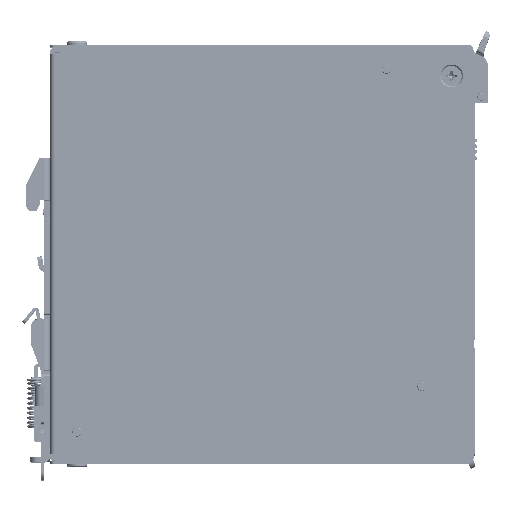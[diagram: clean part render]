
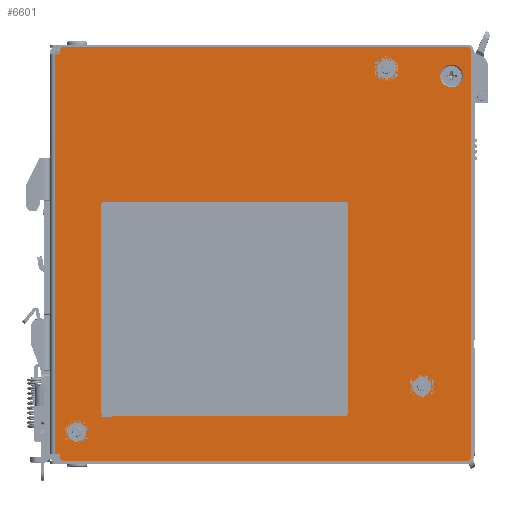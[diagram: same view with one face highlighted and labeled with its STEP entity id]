
A CAD part, top view. The second image highlights one B-rep face of the part: STEP entity #6601.
In plain terms, the highlighted planar face has unit normal (0, 0, 1).
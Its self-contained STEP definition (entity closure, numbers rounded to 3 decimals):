
#1279=DIRECTION('',(0.,-1.,0.));
#1280=VECTOR('',#1279,118.4);
#1281=CARTESIAN_POINT('',(1.5,59.2,0.));
#1282=LINE('',#1281,#1280);
#1301=DIRECTION('',(-1.,0.,0.));
#1302=VECTOR('',#1301,1.5);
#1303=CARTESIAN_POINT('',(3.,59.2,0.));
#1304=LINE('',#1303,#1302);
#1315=CARTESIAN_POINT('',(123.5,-60.1,0.));
#1316=DIRECTION('',(0.,0.,-1.));
#1317=DIRECTION('',(1.,0.,0.));
#1318=AXIS2_PLACEMENT_3D('',#1315,#1316,#1317);
#1323=CARTESIAN_POINT('',(4.,-60.2,0.));
#1324=DIRECTION('',(0.,0.,-1.));
#1325=DIRECTION('',(0.,-1.,0.));
#1326=AXIS2_PLACEMENT_3D('',#1323,#1324,#1325);
#1331=CARTESIAN_POINT('',(2.7,-59.5,0.));
#1332=DIRECTION('',(0.,0.,1.));
#1333=DIRECTION('',(1.,0.,0.));
#1334=AXIS2_PLACEMENT_3D('',#1331,#1332,#1333);
#1339=DIRECTION('',(-1.,0.,0.));
#1340=VECTOR('',#1339,1.2);
#1341=CARTESIAN_POINT('',(2.7,-59.2,0.));
#1342=LINE('',#1341,#1340);
#1346=DIRECTION('',(0.,1.,0.));
#1347=VECTOR('',#1346,1.);
#1348=CARTESIAN_POINT('',(3.,59.2,0.));
#1349=LINE('',#1348,#1347);
#1353=CARTESIAN_POINT('',(4.,60.2,0.));
#1354=DIRECTION('',(0.,0.,-1.));
#1355=DIRECTION('',(-1.,0.,0.));
#1356=AXIS2_PLACEMENT_3D('',#1353,#1354,#1355);
#1361=CARTESIAN_POINT('',(123.5,60.1,0.));
#1362=DIRECTION('',(0.,0.,-1.));
#1363=DIRECTION('',(0.,1.,0.));
#1364=AXIS2_PLACEMENT_3D('',#1361,#1362,#1363);
#1369=CARTESIAN_POINT('',(118.9,52.7,0.));
#1370=DIRECTION('',(0.,0.,1.));
#1371=DIRECTION('',(-1.,0.,0.));
#1372=AXIS2_PLACEMENT_3D('',#1369,#1370,#1371);
#1377=CARTESIAN_POINT('',(118.9,52.7,0.));
#1378=DIRECTION('',(0.,0.,1.));
#1379=DIRECTION('',(1.,0.,0.));
#1380=AXIS2_PLACEMENT_3D('',#1377,#1378,#1379);
#1385=CARTESIAN_POINT('',(8.,-52.7,0.));
#1386=DIRECTION('',(0.,0.,1.));
#1387=DIRECTION('',(1.,0.,0.));
#1388=AXIS2_PLACEMENT_3D('',#1385,#1386,#1387);
#1393=CARTESIAN_POINT('',(8.,-52.7,0.));
#1394=DIRECTION('',(0.,0.,1.));
#1395=DIRECTION('',(-1.,0.,0.));
#1396=AXIS2_PLACEMENT_3D('',#1393,#1394,#1395);
#1401=CARTESIAN_POINT('',(99.6,54.7,0.));
#1402=DIRECTION('',(0.,0.,1.));
#1403=DIRECTION('',(1.,0.,0.));
#1404=AXIS2_PLACEMENT_3D('',#1401,#1402,#1403);
#1409=CARTESIAN_POINT('',(99.6,54.7,0.));
#1410=DIRECTION('',(0.,0.,1.));
#1411=DIRECTION('',(-1.,0.,0.));
#1412=AXIS2_PLACEMENT_3D('',#1409,#1410,#1411);
#1417=CARTESIAN_POINT('',(110.1,-39.2,0.));
#1418=DIRECTION('',(0.,0.,1.));
#1419=DIRECTION('',(1.,0.,0.));
#1420=AXIS2_PLACEMENT_3D('',#1417,#1418,#1419);
#1425=CARTESIAN_POINT('',(110.1,-39.2,0.));
#1426=DIRECTION('',(0.,0.,1.));
#1427=DIRECTION('',(-1.,0.,0.));
#1428=AXIS2_PLACEMENT_3D('',#1425,#1426,#1427);
#1600=DIRECTION('',(0.,1.,0.));
#1601=VECTOR('',#1600,21.7);
#1602=CARTESIAN_POINT('',(124.6,-60.1,0.));
#1603=LINE('',#1602,#1601);
#1614=DIRECTION('',(0.,1.,0.));
#1615=VECTOR('',#1614,98.5);
#1616=CARTESIAN_POINT('',(124.6,-38.4,0.));
#1617=LINE('',#1616,#1615);
#1635=DIRECTION('',(-1.,0.,0.));
#1636=VECTOR('',#1635,119.5);
#1637=CARTESIAN_POINT('',(123.5,61.2,0.));
#1638=LINE('',#1637,#1636);
#1691=DIRECTION('',(0.,-1.,0.));
#1692=VECTOR('',#1691,0.7);
#1693=CARTESIAN_POINT('',(3.,-59.5,0.));
#1694=LINE('',#1693,#1692);
#1712=DIRECTION('',(1.,0.,0.));
#1713=VECTOR('',#1712,119.5);
#1714=CARTESIAN_POINT('',(4.,-61.2,0.));
#1715=LINE('',#1714,#1713);
#1805=DIRECTION('',(0.,1.,0.));
#1806=VECTOR('',#1805,20.);
#1807=CARTESIAN_POINT('',(15.,-29.7,0.));
#1808=LINE('',#1807,#1806);
#1819=DIRECTION('',(1.,0.,0.));
#1820=VECTOR('',#1819,0.2);
#1821=CARTESIAN_POINT('',(15.,-9.7,0.));
#1822=LINE('',#1821,#1820);
#1833=DIRECTION('',(0.,-1.,0.));
#1834=VECTOR('',#1833,20.);
#1835=CARTESIAN_POINT('',(15.2,-9.7,0.));
#1836=LINE('',#1835,#1834);
#1847=DIRECTION('',(-1.,0.,0.));
#1848=VECTOR('',#1847,0.2);
#1849=CARTESIAN_POINT('',(15.2,-29.7,0.));
#1850=LINE('',#1849,#1848);
#1889=DIRECTION('',(0.,1.,0.));
#1890=VECTOR('',#1889,3.5);
#1891=CARTESIAN_POINT('',(15.,-48.2,0.));
#1892=LINE('',#1891,#1890);
#1903=DIRECTION('',(1.,0.,0.));
#1904=VECTOR('',#1903,0.2);
#1905=CARTESIAN_POINT('',(15.,-44.7,0.));
#1906=LINE('',#1905,#1904);
#1917=DIRECTION('',(0.,-1.,0.));
#1918=VECTOR('',#1917,3.3);
#1919=CARTESIAN_POINT('',(15.2,-44.7,0.));
#1920=LINE('',#1919,#1918);
#1931=DIRECTION('',(1.,0.,0.));
#1932=VECTOR('',#1931,3.3);
#1933=CARTESIAN_POINT('',(15.2,-48.,0.));
#1934=LINE('',#1933,#1932);
#1945=DIRECTION('',(0.,-1.,0.));
#1946=VECTOR('',#1945,0.2);
#1947=CARTESIAN_POINT('',(18.5,-48.,0.));
#1948=LINE('',#1947,#1946);
#1959=DIRECTION('',(-1.,0.,0.));
#1960=VECTOR('',#1959,3.5);
#1961=CARTESIAN_POINT('',(18.5,-48.2,0.));
#1962=LINE('',#1961,#1960);
#5310=CARTESIAN_POINT('',(1.5,-59.2,0.));
#5311=VERTEX_POINT('',#5310);
#5312=CARTESIAN_POINT('',(1.5,59.2,0.));
#5313=VERTEX_POINT('',#5312);
#5314=CARTESIAN_POINT('',(3.,59.2,0.));
#5315=VERTEX_POINT('',#5314);
#5318=CARTESIAN_POINT('',(124.6,-60.1,0.));
#5319=CARTESIAN_POINT('',(123.5,-61.2,0.));
#5320=VERTEX_POINT('',#5318);
#5321=VERTEX_POINT('',#5319);
#5322=CARTESIAN_POINT('',(4.,-61.2,0.));
#5323=VERTEX_POINT('',#5322);
#5324=CARTESIAN_POINT('',(3.,-60.2,0.));
#5325=VERTEX_POINT('',#5324);
#5326=CARTESIAN_POINT('',(3.,-59.5,0.));
#5327=VERTEX_POINT('',#5326);
#5328=CARTESIAN_POINT('',(2.7,-59.2,0.));
#5329=VERTEX_POINT('',#5328);
#5330=CARTESIAN_POINT('',(3.,60.2,0.));
#5331=VERTEX_POINT('',#5330);
#5332=CARTESIAN_POINT('',(4.,61.2,0.));
#5333=VERTEX_POINT('',#5332);
#5334=CARTESIAN_POINT('',(123.5,61.2,0.));
#5335=VERTEX_POINT('',#5334);
#5336=CARTESIAN_POINT('',(124.6,60.1,0.));
#5337=VERTEX_POINT('',#5336);
#5338=CARTESIAN_POINT('',(124.6,-38.4,0.));
#5339=VERTEX_POINT('',#5338);
#5340=CARTESIAN_POINT('',(115.55,52.7,0.));
#5341=CARTESIAN_POINT('',(122.25,52.7,0.));
#5342=VERTEX_POINT('',#5340);
#5343=VERTEX_POINT('',#5341);
#5344=CARTESIAN_POINT('',(10.8,-52.7,0.));
#5345=CARTESIAN_POINT('',(5.2,-52.7,0.));
#5346=VERTEX_POINT('',#5344);
#5347=VERTEX_POINT('',#5345);
#5348=CARTESIAN_POINT('',(102.4,54.7,0.));
#5349=CARTESIAN_POINT('',(96.8,54.7,0.));
#5350=VERTEX_POINT('',#5348);
#5351=VERTEX_POINT('',#5349);
#5352=CARTESIAN_POINT('',(15.,-29.7,0.));
#5353=CARTESIAN_POINT('',(15.,-9.7,0.));
#5354=VERTEX_POINT('',#5352);
#5355=VERTEX_POINT('',#5353);
#5356=CARTESIAN_POINT('',(15.2,-29.7,0.));
#5357=VERTEX_POINT('',#5356);
#5358=CARTESIAN_POINT('',(15.2,-9.7,0.));
#5359=VERTEX_POINT('',#5358);
#5360=CARTESIAN_POINT('',(15.,-48.2,0.));
#5361=CARTESIAN_POINT('',(15.,-44.7,0.));
#5362=VERTEX_POINT('',#5360);
#5363=VERTEX_POINT('',#5361);
#5364=CARTESIAN_POINT('',(18.5,-48.2,0.));
#5365=VERTEX_POINT('',#5364);
#5366=CARTESIAN_POINT('',(18.5,-48.,0.));
#5367=VERTEX_POINT('',#5366);
#5368=CARTESIAN_POINT('',(15.2,-48.,0.));
#5369=VERTEX_POINT('',#5368);
#5370=CARTESIAN_POINT('',(15.2,-44.7,0.));
#5371=VERTEX_POINT('',#5370);
#5372=CARTESIAN_POINT('',(112.9,-39.2,0.));
#5373=CARTESIAN_POINT('',(107.3,-39.2,0.));
#5374=VERTEX_POINT('',#5372);
#5375=VERTEX_POINT('',#5373);
#6520=CARTESIAN_POINT('',(0.,0.,0.));
#6521=DIRECTION('',(0.,0.,1.));
#6522=DIRECTION('',(1.,0.,0.));
#6523=AXIS2_PLACEMENT_3D('',#6520,#6521,#6522);
#6524=PLANE('',#6523);
#6526=ORIENTED_EDGE('',*,*,#6525,.T.);
#6528=ORIENTED_EDGE('',*,*,#6527,.F.);
#6530=ORIENTED_EDGE('',*,*,#6529,.T.);
#6532=ORIENTED_EDGE('',*,*,#6531,.F.);
#6534=ORIENTED_EDGE('',*,*,#6533,.T.);
#6536=ORIENTED_EDGE('',*,*,#6535,.T.);
#6537=ORIENTED_EDGE('',*,*,#6487,.F.);
#6538=ORIENTED_EDGE('',*,*,#6510,.F.);
#6540=ORIENTED_EDGE('',*,*,#6539,.T.);
#6542=ORIENTED_EDGE('',*,*,#6541,.T.);
#6544=ORIENTED_EDGE('',*,*,#6543,.F.);
#6546=ORIENTED_EDGE('',*,*,#6545,.T.);
#6548=ORIENTED_EDGE('',*,*,#6547,.F.);
#6550=ORIENTED_EDGE('',*,*,#6549,.F.);
#6551=EDGE_LOOP('',(#6526,#6528,#6530,#6532,#6534,#6536,#6537,#6538,#6540,#6542,
#6544,#6546,#6548,#6550));
#6552=FACE_OUTER_BOUND('',#6551,.F.);
#6554=ORIENTED_EDGE('',*,*,#6553,.T.);
#6556=ORIENTED_EDGE('',*,*,#6555,.T.);
#6557=EDGE_LOOP('',(#6554,#6556));
#6558=FACE_BOUND('',#6557,.F.);
#6560=ORIENTED_EDGE('',*,*,#6559,.T.);
#6562=ORIENTED_EDGE('',*,*,#6561,.T.);
#6563=EDGE_LOOP('',(#6560,#6562));
#6564=FACE_BOUND('',#6563,.F.);
#6566=ORIENTED_EDGE('',*,*,#6565,.T.);
#6568=ORIENTED_EDGE('',*,*,#6567,.T.);
#6569=EDGE_LOOP('',(#6566,#6568));
#6570=FACE_BOUND('',#6569,.F.);
#6572=ORIENTED_EDGE('',*,*,#6571,.F.);
#6574=ORIENTED_EDGE('',*,*,#6573,.F.);
#6576=ORIENTED_EDGE('',*,*,#6575,.F.);
#6578=ORIENTED_EDGE('',*,*,#6577,.F.);
#6579=EDGE_LOOP('',(#6572,#6574,#6576,#6578));
#6580=FACE_BOUND('',#6579,.F.);
#6582=ORIENTED_EDGE('',*,*,#6581,.F.);
#6584=ORIENTED_EDGE('',*,*,#6583,.F.);
#6586=ORIENTED_EDGE('',*,*,#6585,.F.);
#6588=ORIENTED_EDGE('',*,*,#6587,.F.);
#6590=ORIENTED_EDGE('',*,*,#6589,.F.);
#6592=ORIENTED_EDGE('',*,*,#6591,.F.);
#6593=EDGE_LOOP('',(#6582,#6584,#6586,#6588,#6590,#6592));
#6594=FACE_BOUND('',#6593,.F.);
#6596=ORIENTED_EDGE('',*,*,#6595,.T.);
#6598=ORIENTED_EDGE('',*,*,#6597,.T.);
#6599=EDGE_LOOP('',(#6596,#6598));
#6600=FACE_BOUND('',#6599,.F.);
#6601=ADVANCED_FACE('',(#6552,#6558,#6564,#6570,#6580,#6594,#6600),#6524,.T.);
#1319=CIRCLE('',#1318,1.1);
#1327=CIRCLE('',#1326,1.);
#1335=CIRCLE('',#1334,0.3);
#1357=CIRCLE('',#1356,1.);
#1365=CIRCLE('',#1364,1.1);
#1373=CIRCLE('',#1372,3.35);
#1381=CIRCLE('',#1380,3.35);
#1389=CIRCLE('',#1388,2.8);
#1397=CIRCLE('',#1396,2.8);
#1405=CIRCLE('',#1404,2.8);
#1413=CIRCLE('',#1412,2.8);
#1421=CIRCLE('',#1420,2.8);
#1429=CIRCLE('',#1428,2.8);
#6487=EDGE_CURVE('',#5313,#5311,#1282,.T.);
#6510=EDGE_CURVE('',#5315,#5313,#1304,.T.);
#6525=EDGE_CURVE('',#5320,#5321,#1319,.T.);
#6527=EDGE_CURVE('',#5323,#5321,#1715,.T.);
#6529=EDGE_CURVE('',#5323,#5325,#1327,.T.);
#6531=EDGE_CURVE('',#5327,#5325,#1694,.T.);
#6533=EDGE_CURVE('',#5327,#5329,#1335,.T.);
#6535=EDGE_CURVE('',#5329,#5311,#1342,.T.);
#6539=EDGE_CURVE('',#5315,#5331,#1349,.T.);
#6541=EDGE_CURVE('',#5331,#5333,#1357,.T.);
#6543=EDGE_CURVE('',#5335,#5333,#1638,.T.);
#6545=EDGE_CURVE('',#5335,#5337,#1365,.T.);
#6547=EDGE_CURVE('',#5339,#5337,#1617,.T.);
#6549=EDGE_CURVE('',#5320,#5339,#1603,.T.);
#6553=EDGE_CURVE('',#5342,#5343,#1373,.T.);
#6555=EDGE_CURVE('',#5343,#5342,#1381,.T.);
#6559=EDGE_CURVE('',#5346,#5347,#1389,.T.);
#6561=EDGE_CURVE('',#5347,#5346,#1397,.T.);
#6565=EDGE_CURVE('',#5350,#5351,#1405,.T.);
#6567=EDGE_CURVE('',#5351,#5350,#1413,.T.);
#6571=EDGE_CURVE('',#5354,#5355,#1808,.T.);
#6573=EDGE_CURVE('',#5357,#5354,#1850,.T.);
#6575=EDGE_CURVE('',#5359,#5357,#1836,.T.);
#6577=EDGE_CURVE('',#5355,#5359,#1822,.T.);
#6581=EDGE_CURVE('',#5362,#5363,#1892,.T.);
#6583=EDGE_CURVE('',#5365,#5362,#1962,.T.);
#6585=EDGE_CURVE('',#5367,#5365,#1948,.T.);
#6587=EDGE_CURVE('',#5369,#5367,#1934,.T.);
#6589=EDGE_CURVE('',#5371,#5369,#1920,.T.);
#6591=EDGE_CURVE('',#5363,#5371,#1906,.T.);
#6595=EDGE_CURVE('',#5374,#5375,#1421,.T.);
#6597=EDGE_CURVE('',#5375,#5374,#1429,.T.);
